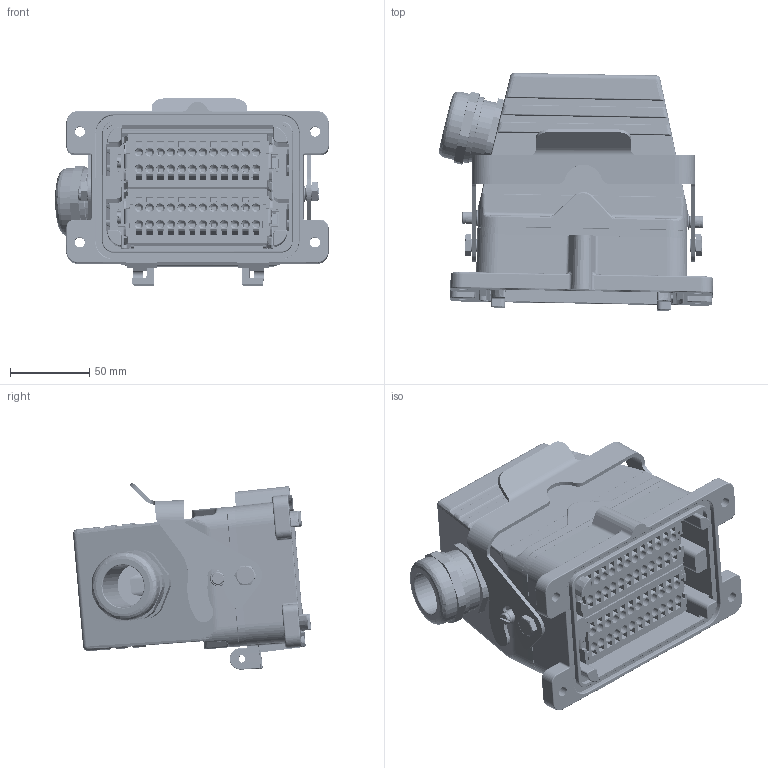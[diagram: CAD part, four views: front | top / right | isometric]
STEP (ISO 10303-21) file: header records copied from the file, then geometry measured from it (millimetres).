
FILE_DESCRIPTION (( 'STEP AP214' ), '1' );
FILE_NAME ('09148101132M HESH、48针、开孔底座、侧出M32套件、配金属接头.STEP', '2024-05-06T05:23:18', ( 'L' ), ( '' ), 'SwSTEP 2.0', 'SolidWorks 2019', '' );
FILE_SCHEMA (( 'AUTOMOTIVE_DESIGN' ));
Length unit declared in the file: millimetre
Products named in the file (8): H48B-TS-M32.step; H48B-AG.step; HESH-024-MD.stp; HESH-024-F.stp; HESH-024-FD.stp; HESH-024-M.stp; FAS-32-M.step; 09148101132M HESH、48针、开孔底座、侧出M32套件、配金属接头
Assembly tree (7 placements, depth 2):
  09148101132M HESH、48针、开孔底座、侧出M32套件、配金属接头
    H48B-AG.step
    H48B-TS-M32.step
    FAS-32-M.step
    HESH-024-M.stp
    HESH-024-MD.stp
    HESH-024-F.stp
    HESH-024-FD.stp
Bounding box: 172.16 x 149.73 x 117.72 mm (x, y, z)
Volume: 508306.6 mm3; surface area: 320339.5 mm2
Topology: 6 solids, 10 shells, 7772 faces, 20491 edges, 13100 vertices
Faces by surface type: plane 4199, cylinder 1757, cone 1156, bspline 445, sphere 108, torus 107
Entity records: 310376 total; most frequent: CARTESIAN_POINT 98658, ORIENTED_EDGE 40462, DIRECTION 35328, EDGE_CURVE 20239, VERTEX_POINT 13096, AXIS2_PLACEMENT_3D 11809, VECTOR 11710, LINE 11710
